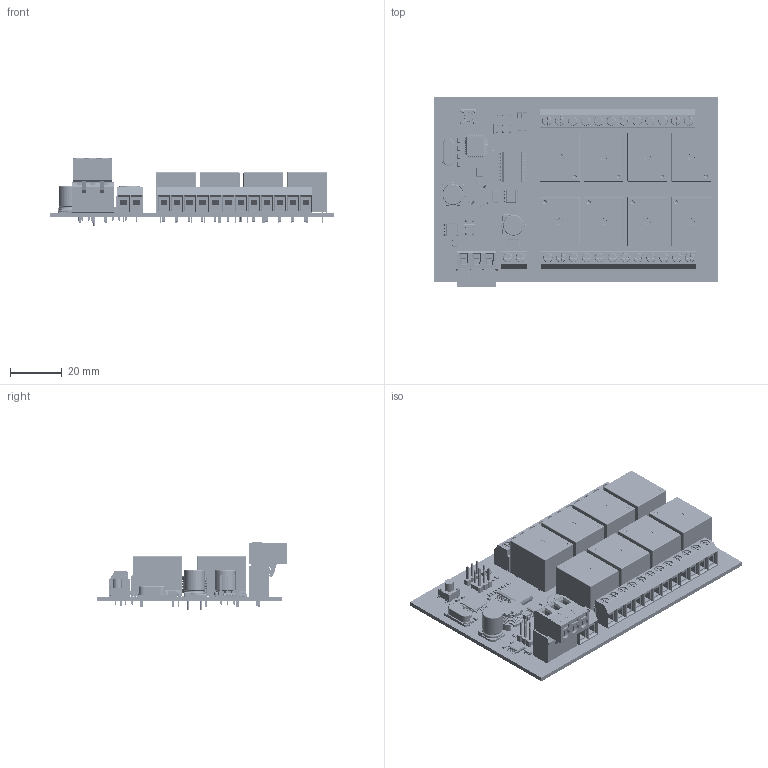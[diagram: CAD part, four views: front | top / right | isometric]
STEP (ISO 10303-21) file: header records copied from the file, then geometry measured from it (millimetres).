
FILE_DESCRIPTION(('Open CASCADE Model'),'2;1');
FILE_NAME('Open CASCADE Shape Model','2016-07-11T11:10:44',('Author'),( 'Open CASCADE'),'Open CASCADE STEP processor 6.2','Open CASCADE 6.2' ,'Unknown');
FILE_SCHEMA(('AUTOMOTIVE_DESIGN { 1 0 10303 214 1 1 1 1 }'));
Length unit declared in the file: millimetre
Products named in the file (94): PCB; Board; D4; CDSOT23-SM712; C1; GRM188; C2; C3; C8; C9; C10; UWT1C471MNL1GS; C11; UWT1H101MNL1GS; D1; 1N4148WT; D5; SK1; D6; S1; J1; PHDS06G11; PHDS02G11_PHDS02G11; J2; PHS03G10; PHSSXXG10_PHSS01G10; J3; DT-126VP-12P; DT-126VP-03P; J4; J5; J6; 5EHDVC-3P; 5EHDVC_Body; 5EHDVC_Side; 5ESDV_5ESDV-03P; J8; DT-126VP-02P; K1; HRS4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
Assembly tree (135 placements, depth 4):
  PCB
    Board
    D4
      CDSOT23-SM712
    C1
      GRM188
    C2
      GRM188
    C3
      GRM188
    C8
      GRM188
    C9
      GRM188
    C10
      UWT1C471MNL1GS
    C11
      UWT1H101MNL1GS
    D1
      1N4148WT
    D5
      SK1
    D6
      S1
    J1
      PHDS06G11
        PHDS02G11_PHDS02G11  x3
    J2
      PHS03G10
        PHSSXXG10_PHSS01G10  x3
    J3
      DT-126VP-12P
        DT-126VP-03P  x4
    J4
      DT-126VP-12P
        DT-126VP-03P  x4
    J5
      PHDS06G11
        PHDS02G11_PHDS02G11  x3
    J6
      5EHDVC-3P
        5EHDVC_Body  x3
        5EHDVC_Side  x2
        5ESDV_5ESDV-03P
    J8
      DT-126VP-02P
    K1
      HRS4
    K2
      HRS4
    K3
      HRS4
    K4
      HRS4
    K5
      HRS4
    K6
      HRS4
    K7
      HRS4
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Bounding box: 110 x 74 x 26.35 mm (x, y, z)
Volume: 61402.3 mm3; surface area: 54322.5 mm2
Topology: 95 solids, 95 shells, 9777 faces, 24701 edges, 15096 vertices
Faces by surface type: plane 4942, cylinder 3506, torus 821, sphere 292, bspline 184, cone 20, revolution 12
Entity records: 562172 total; most frequent: CARTESIAN_POINT 295120, DIRECTION 38453, ORIENTED_EDGE 24822, PCURVE 24822, DEFINITIONAL_REPRESENTATION 24822, LINE 18099, VECTOR 18099, EDGE_CURVE 12411
